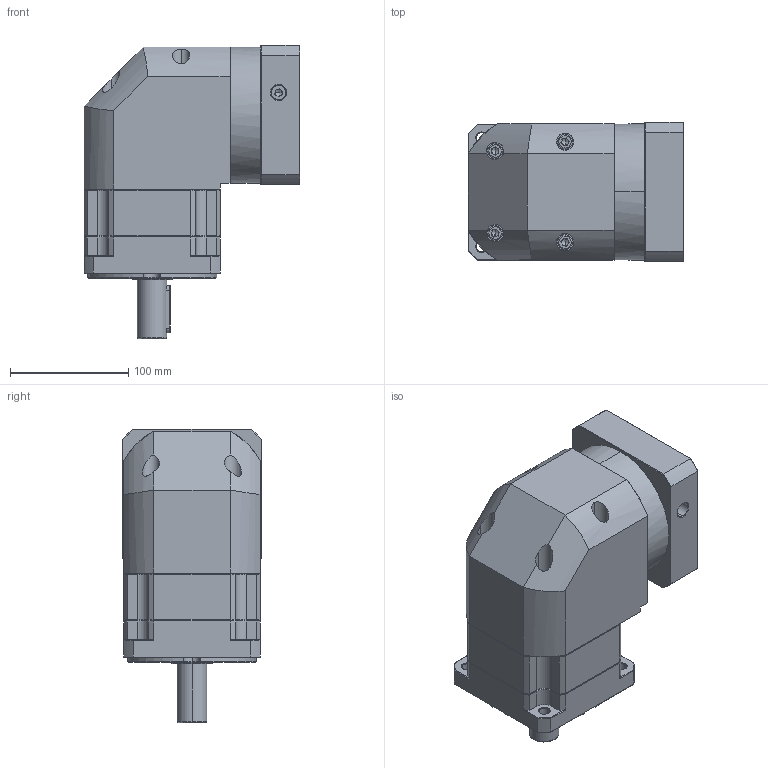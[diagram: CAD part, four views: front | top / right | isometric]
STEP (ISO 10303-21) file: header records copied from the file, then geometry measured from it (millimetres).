
FILE_DESCRIPTION (( 'STEP AP214' ), '1' );
FILE_NAME ('ZBR115A-D25-L1-P2-19-95-115-M6.step', '2023-08-26T12:30:16', ( '' ), ( '' ), 'SwSTEP 2.0', 'SolidWorks 2016', '' );
FILE_SCHEMA (( 'AUTOMOTIVE_DESIGN' ));
Length unit declared in the file: millimetre
Products named in the file (1): ZBR115A-D25-L1-P2-19-95-115-M6
Bounding box: 182.4 x 118 x 248 mm (x, y, z)
Volume: 2863096.5 mm3; surface area: 238110.6 mm2
Topology: 6 solids, 6 shells, 2367 faces, 6200 edges, 3936 vertices
Faces by surface type: plane 1138, bspline 428, cylinder 424, cone 369, torus 8
Entity records: 128370 total; most frequent: CARTESIAN_POINT 47650, ORIENTED_EDGE 12340, DIRECTION 9741, EDGE_CURVE 6170, VECTOR 3971, LINE 3971, VERTEX_POINT 3936, AXIS2_PLACEMENT_3D 2885
